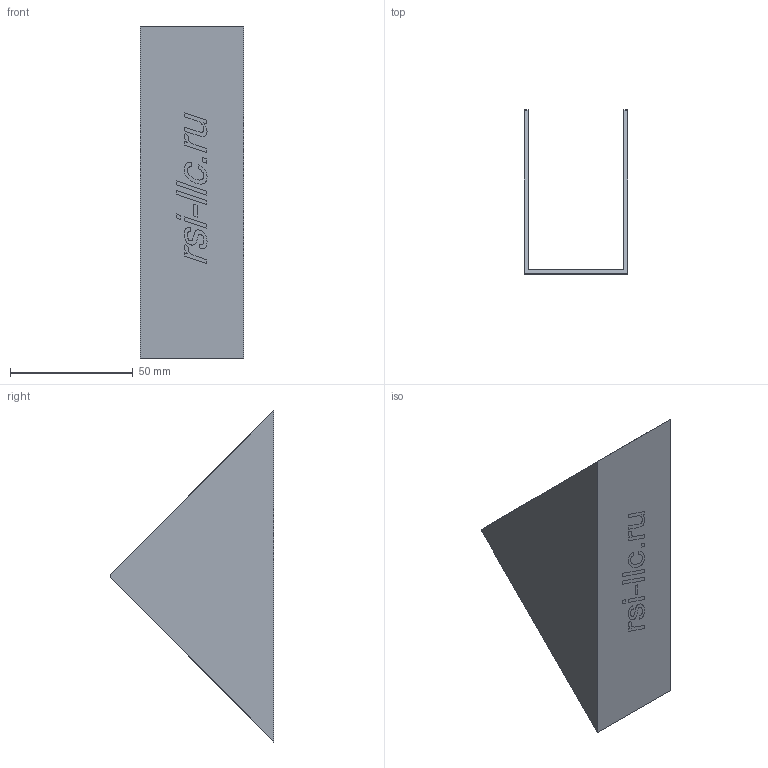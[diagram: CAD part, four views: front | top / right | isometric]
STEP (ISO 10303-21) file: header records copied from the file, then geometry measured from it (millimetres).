
FILE_DESCRIPTION (( 'STEP AP214' ), '1' );
FILE_NAME ('4114.STEP', '2022-08-18T11:09:29', ( 'Home' ), ( '' ), 'SwSTEP 2.0', 'SolidWorks 2020', '' );
FILE_SCHEMA (( 'AUTOMOTIVE_DESIGN' ));
Length unit declared in the file: millimetre
Products named in the file (1): 4114
Bounding box: 42 x 66.6 x 135 mm (x, y, z)
Volume: 21519.2 mm3; surface area: 29865.2 mm2
Topology: 12 solids, 12 shells, 115 faces, 273 edges, 182 vertices
Faces by surface type: plane 81, bspline 32, cylinder 2
Entity records: 6315 total; most frequent: CARTESIAN_POINT 2571, ORIENTED_EDGE 546, DIRECTION 381, EDGE_CURVE 273, LINE 205, VECTOR 205, VERTEX_POINT 182, UNCERTAINTY_MEASURE_WITH_UNIT 119
